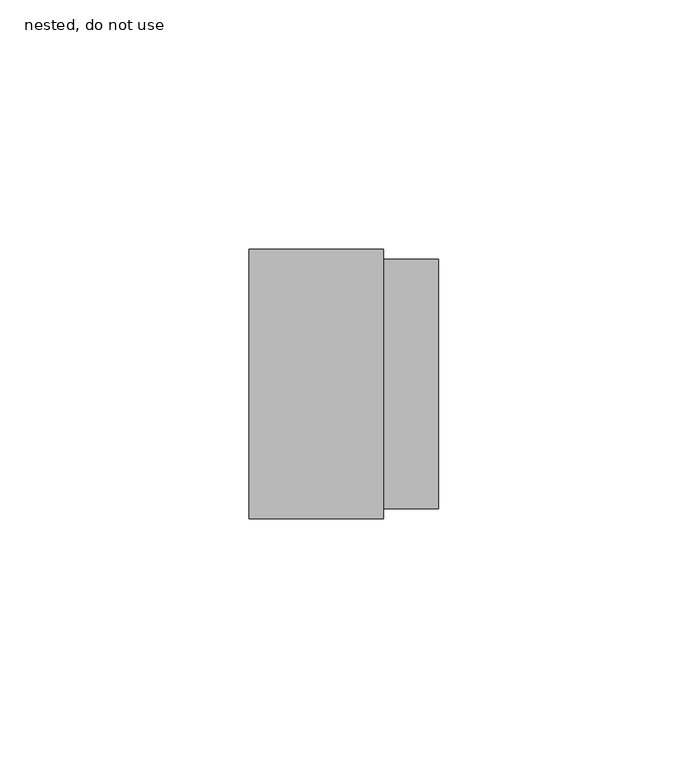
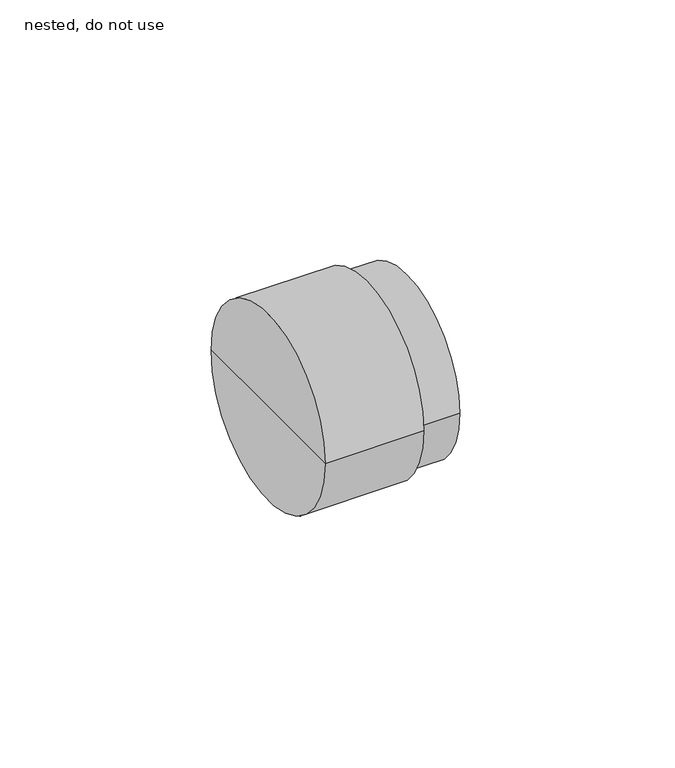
"""IFC4 building model written with IfcOpenShell, lengths in millimetres: pipe fitting geometry, NLRS_52_PIF_UN_HDPE trap connecting socket -SH_Akatherm : nested, do not use."""

from ifc_helpers import new_model, si_unit, frame, origin, place, context, project, spatial, circle_curve, source, transform, mapped, element, save
from ifc_brep_helpers import plane_surface, cylinder_surface, advanced_brep


def nested_do_not_use_2b7e7ef3(model_context):
    return source(origin(), model_context, "Body", "AdvancedBrep", [
        advanced_brep(
        [(-19.0, 0.0, 0.0), (-19.0, 27.0, 0.0), (-19.0, -27.0, 0.0), (8.0, 27.0, 0.0), (8.0, -27.0, 0.0), (8.0, 25.0, 0.0), (8.0, -25.0, 0.0), (19.0, 25.0, 0.0), (19.0, -25.0, 0.0), (19.0, 0.0, 0.0)],
        [
            (0, 1),
            (1, 2, circle_curve(frame((-19.0, 0.0, 0.0), z_axis=(-1.0, 0.0, 0.0), x_axis=(0.0, 1.0, 0.0)), 27.0)),
            (2, 0),
            (2, 1, circle_curve(frame((-19.0, 0.0, 0.0), z_axis=(-1.0, 0.0, 0.0), x_axis=(0.0, 1.0, 0.0)), 27.0)),
            (1, 3),
            (3, 4, circle_curve(frame((8.0, 0.0, 0.0), z_axis=(-1.0, 0.0, 0.0), x_axis=(0.0, 1.0, 0.0)), 27.0)),
            (4, 2),
            (4, 3, circle_curve(frame((8.0, 0.0, 0.0), z_axis=(-1.0, 0.0, 0.0), x_axis=(0.0, 1.0, 0.0)), 27.0)),
            (3, 5),
            (5, 6, circle_curve(frame((8.0, 0.0, 0.0), z_axis=(-1.0, 0.0, 0.0), x_axis=(0.0, 1.0, 0.0)), 25.0)),
            (6, 4),
            (6, 5, circle_curve(frame((8.0, 0.0, 0.0), z_axis=(-1.0, 0.0, 0.0), x_axis=(0.0, 1.0, 0.0)), 25.0)),
            (5, 7),
            (7, 8, circle_curve(frame((19.0, 0.0, 0.0), z_axis=(-1.0, 0.0, 0.0), x_axis=(0.0, 1.0, 0.0)), 25.0)),
            (8, 6),
            (8, 7, circle_curve(frame((19.0, 0.0, 0.0), z_axis=(-1.0, 0.0, 0.0), x_axis=(0.0, 1.0, 0.0)), 25.0)),
            (7, 9),
            (9, 8),
        ],
        [
            plane_surface(frame((-19.0, 0.0, 0.0), z_axis=(-1.0, 0.0, 0.0), x_axis=(0.0, 1.0, 0.0))),
            cylinder_surface(frame((29.565785, 0.0, 0.0), z_axis=(-1.0, 0.0, 0.0), x_axis=(0.0, 1.0, 0.0)), 27.0),
            plane_surface(frame((8.0, 0.0, 0.0), z_axis=(1.0, 0.0, 0.0), x_axis=(0.0, 1.0, 0.0))),
            cylinder_surface(frame((29.565785, 0.0, 0.0), z_axis=(-1.0, 0.0, 0.0), x_axis=(0.0, 1.0, 0.0)), 25.0),
            plane_surface(frame((19.0, 0.0, 0.0), z_axis=(1.0, 0.0, 0.0), x_axis=(0.0, 1.0, 0.0))),
        ],
        [
            (0, [[1, 2, 3]]),
            (0, [[-3, 4, -1]]),
            (1, [[-2, 5, 6, 7]]),
            (1, [[-4, -7, 8, -5]]),
            (2, [[-6, 9, 10, 11]]),
            (2, [[-8, -11, 12, -9]]),
            (3, [[-10, 13, 14, 15]]),
            (3, [[-12, -15, 16, -13]]),
            (4, [[-14, 17, 18]]),
            (4, [[-16, -18, -17]]),
        ],
    ),
    ])


if __name__ == "__main__":
    model = new_model("IFC4")
    model_context = context("Model", 3, world=origin())
    ifc_project = project(units=[si_unit("LENGTHUNIT", "METRE", prefix="MILLI")], contexts=[model_context])
    site = spatial("IfcSite", under=ifc_project)
    building = spatial("IfcBuilding", under=site)
    placement = place(None, origin())
    nested_do_not_use_shape = nested_do_not_use_2b7e7ef3(model_context)
    element("IfcPipeFitting", 1, ObjectType="NLRS_52_PIF_UN_HDPE trap connecting socket -SH_Akatherm : nested, do not use", at=placement, inside=building, context=model_context, shape_type="MappedRepresentation", body=[
        mapped(nested_do_not_use_shape, transform((0.0, 0.0, 0.0), x_axis=(1.0, 0.0, 0.0), y_axis=(0.0, 1.0, 0.0), z_axis=(0.0, 0.0, 1.0))),
    ])
    save(model, "model.ifc")
